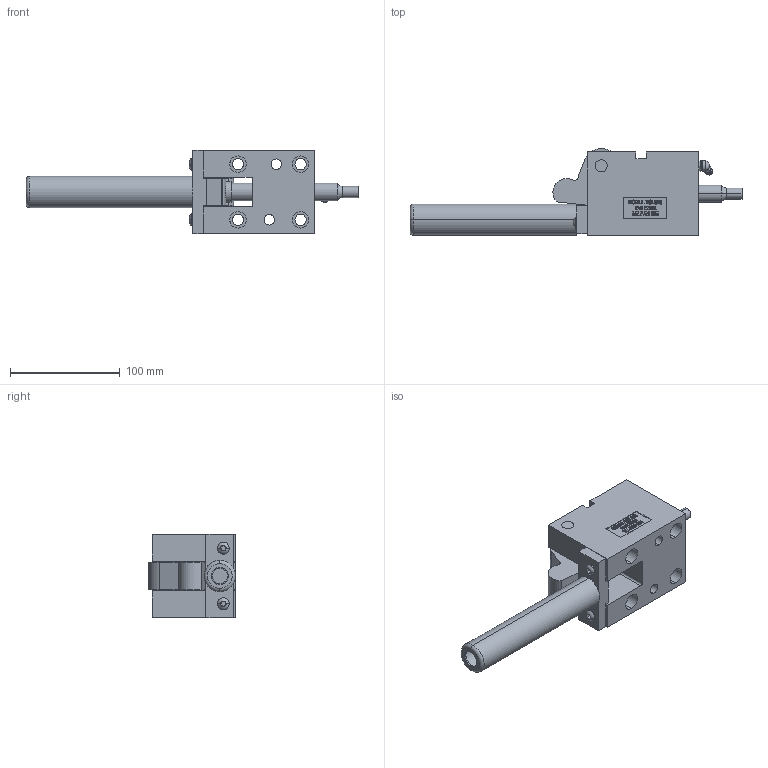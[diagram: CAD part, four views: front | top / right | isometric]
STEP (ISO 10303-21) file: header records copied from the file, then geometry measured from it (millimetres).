
FILE_DESCRIPTION (( 'STEP AP214' ), '1' );
FILE_NAME ('TOL62545-C.STEP', '2014-01-05T22:45:10', ( 'user' ), ( '' ), 'SwSTEP 2.0', 'SolidWorks 2009', '' );
FILE_SCHEMA (( 'AUTOMOTIVE_DESIGN' ));
Length unit declared in the file: inch
Products named in the file (10): O-625-POINT; TOL62545-C; OL625-PUNCH; TOL625-BODY; 625-OFFSET TRIGGER; OL625-CAGE; 625 PIVOT PIN; 625-O-STRAP; 1-4 SCREW; GREASE ZERK
Assembly tree (10 placements, depth 2):
  TOL62545-C
    625 PIVOT PIN
    GREASE ZERK
    OL625-PUNCH
    625-O-STRAP
    625-OFFSET TRIGGER
    1-4 SCREW  x2
    TOL625-BODY
    OL625-CAGE
    O-625-POINT
Bounding box: 303.07 x 79.37 x 76.2 mm (x, y, z)
Volume: 542118.6 mm3; surface area: 120903.3 mm2
Topology: 10 solids, 10 shells, 596 faces, 1541 edges, 1014 vertices
Faces by surface type: plane 347, bspline 101, cylinder 96, cone 26, torus 22, sphere 4
Entity records: 23773 total; most frequent: CARTESIAN_POINT 9860, ORIENTED_EDGE 2994, DIRECTION 2419, EDGE_CURVE 1497, VERTEX_POINT 988, VECTOR 979, LINE 979, AXIS2_PLACEMENT_3D 720
